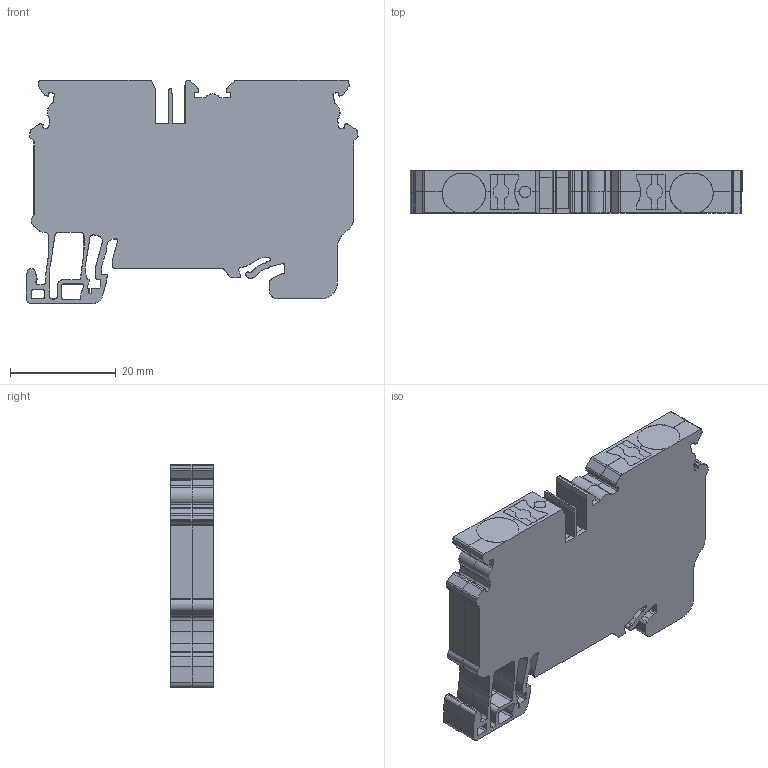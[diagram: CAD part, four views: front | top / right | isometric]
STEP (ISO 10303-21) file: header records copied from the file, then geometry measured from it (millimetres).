
FILE_DESCRIPTION(/* description */ ('Unknown'),/* implementation_level */ '2;1');
FILE_NAME(/* name */ 'CPG6_10',/* time_stamp */ '2019-12-21T17:58:04+05:00',/* author */ ('Unknown'),/* organization */ ('Unknown'),/* preprocessor_version */ 'ST-DEVELOPER v16.7',/* originating_system */ 'DEX',/* authorisation */ $);
FILE_SCHEMA (('AP242_MANAGED_MODEL_BASED_3D_ENGINEERING_MIM_LF { 1 0 10303 442 20130219 1 4 }'));
Length unit declared in the file: millimetre
Products named in the file (1): CPG6_10
Bounding box: 62.75 x 8 x 42.2 mm (x, y, z)
Volume: 16454.5 mm3; surface area: 7237.1 mm2
Topology: 1 solids, 1 shells, 572 faces, 1699 edges, 1133 vertices
Faces by surface type: plane 311, cylinder 261
Full cylindrical faces by diameter (mm): 2.2 x1
Entity records: 23311 total; most frequent: CARTESIAN_POINT 3402, ORIENTED_EDGE 3394, DIRECTION 3372, EDGE_CURVE 1697, LINE 1168, VECTOR 1168, VERTEX_POINT 1132, AXIS2_PLACEMENT_3D 1102
